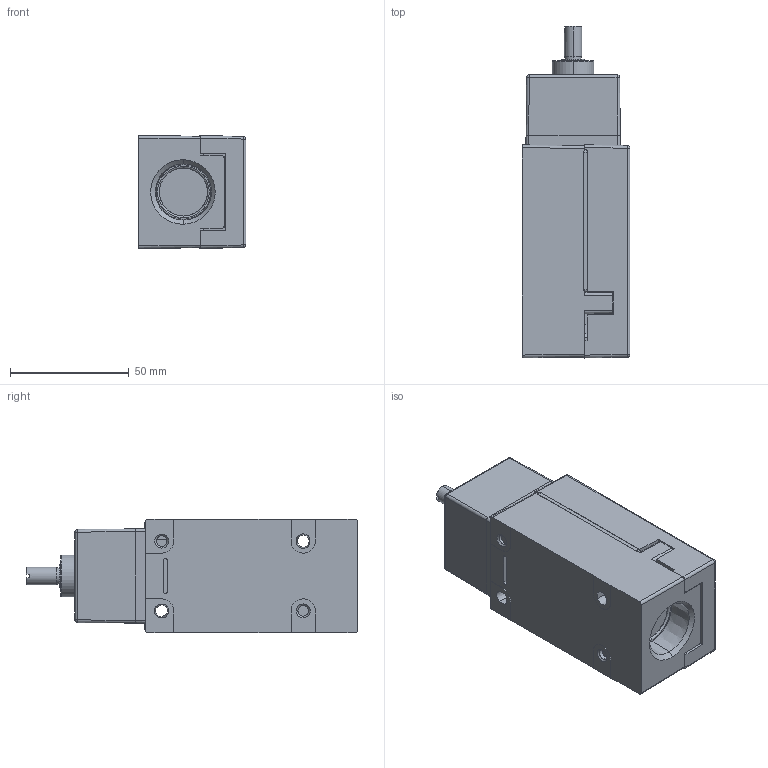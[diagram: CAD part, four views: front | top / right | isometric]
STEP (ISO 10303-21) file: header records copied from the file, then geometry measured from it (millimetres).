
FILE_DESCRIPTION((''),'2;1');
FILE_NAME('LSB2B_SW','2012-12-06T',('E522935'),(''),'PRO/ENGINEER BY PARAMETRIC TECHNOLOGY CORPORATION, 2009460','PRO/ENGINEER BY PARAMETRIC TECHNOLOGY CORPORATION, 2009460','');
FILE_SCHEMA(('CONFIG_CONTROL_DESIGN'));
Length unit declared in the file: inch
Products named in the file (1): LSB2B_SW
Bounding box: 45.34 x 139.59 x 47.62 mm (x, y, z)
Volume: 225282.4 mm3; surface area: 32880.7 mm2
Topology: 1 solids, 1 shells, 491 faces, 1260 edges, 778 vertices
Faces by surface type: plane 294, cylinder 141, cone 28, sphere 20, bspline 4, torus 4
Entity records: 16116 total; most frequent: CARTESIAN_POINT 4120, ORIENTED_EDGE 2520, DIRECTION 2494, EDGE_CURVE 1260, AXIS2_PLACEMENT_3D 868, VERTEX_POINT 778, VECTOR 758, LINE 758
